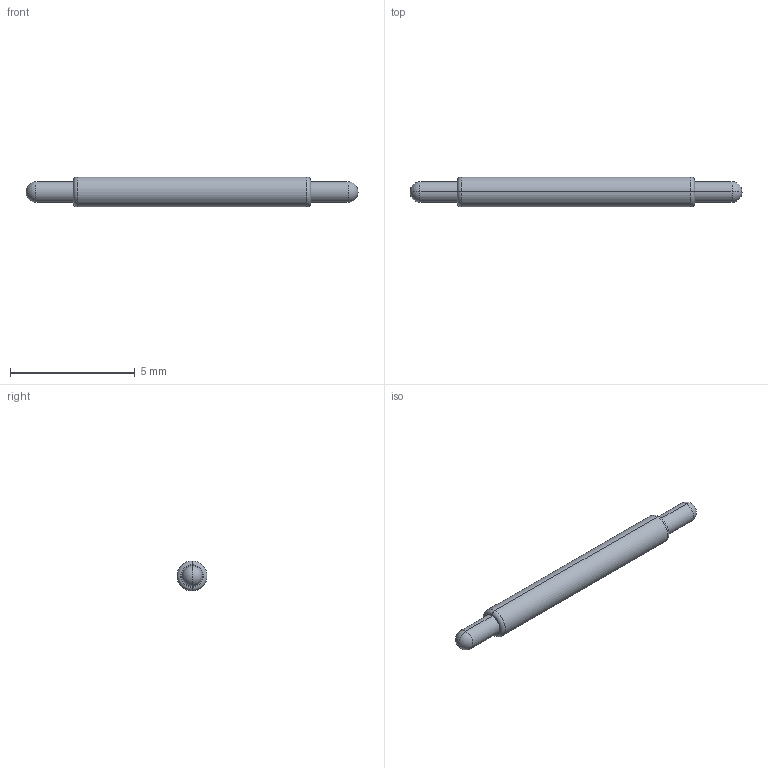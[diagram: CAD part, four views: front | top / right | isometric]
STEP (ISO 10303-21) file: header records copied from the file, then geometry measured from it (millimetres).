
FILE_DESCRIPTION((''),'2;1');
FILE_NAME('C3698-01PA','2022-05-18T16:43:29',('Administrator'),(''),'CREO PARAMETRIC BY PTC INC, 2018400','CREO PARAMETRIC BY PTC INC, 2018400','');
FILE_SCHEMA(('CONFIG_CONTROL_DESIGN'));
Length unit declared in the file: millimetre
Products named in the file (1): C3698-01PA
Bounding box: 13.3 x 1.2 x 1.2 mm (x, y, z)
Volume: 12.6 mm3; surface area: 46.4 mm2
Topology: 1 solids, 1 shells, 16 faces, 34 edges, 18 vertices
Faces by surface type: cylinder 6, torus 4, sphere 4, plane 2
Entity records: 448 total; most frequent: DIRECTION 86, CARTESIAN_POINT 64, ORIENTED_EDGE 60, AXIS2_PLACEMENT_3D 40, EDGE_CURVE 30, CIRCLE 24, VERTEX_POINT 18, EDGE_LOOP 18
